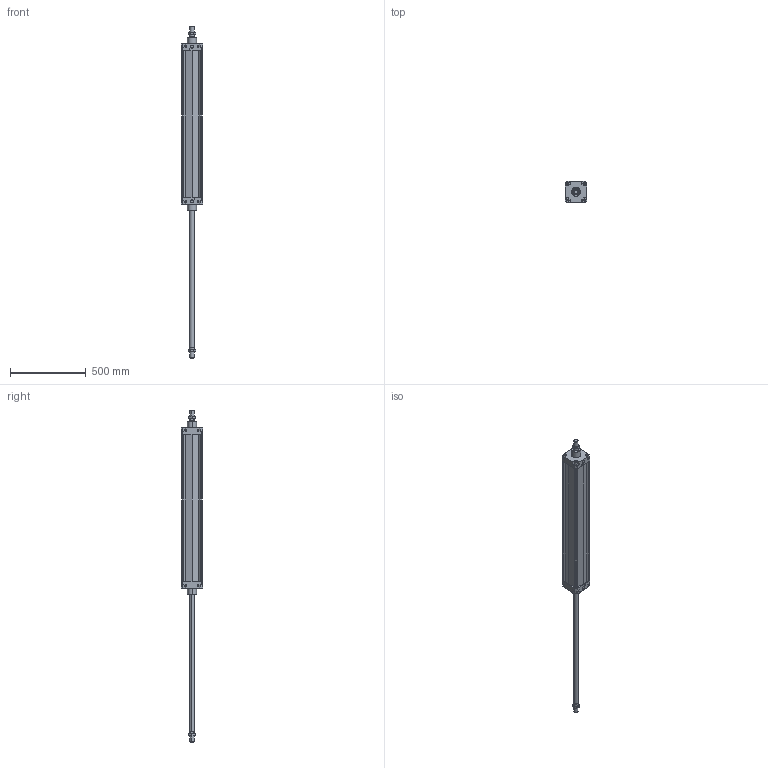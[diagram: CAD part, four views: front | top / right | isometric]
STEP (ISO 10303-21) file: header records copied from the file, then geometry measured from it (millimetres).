
FILE_DESCRIPTION((''),'2;1');
FILE_NAME('I:\DOC-EDP\Lib-3d\1319\CILINDRI\Ø125\1319_125_0900_02.stp','2003-04-08T12:27:51',('maffial1'),(''),'Autodesk Inventor (R) 6.0','Autodesk Inventor (R) 6.0','');
FILE_SCHEMA(('AUTOMOTIVE_DESIGN { 1 0 10303 214 1 1 1 1 }'));
Length unit declared in the file: millimetre
Products named in the file (4): 1319_125_0900_02; CIM04_125_900; CIM03_125_900; 1320_125_18F
Assembly tree (4 placements, depth 2):
  1319_125_0900_02
    CIM04_125_900
    CIM03_125_900
    1320_125_18F  x2
Bounding box: 140 x 140 x 2198 mm (x, y, z)
Volume: 18121499.4 mm3; surface area: 1023033.6 mm2
Topology: 4 solids, 4 shells, 290 faces, 724 edges, 452 vertices
Faces by surface type: plane 130, bspline 72, cone 60, cylinder 28
Entity records: 8094 total; most frequent: CARTESIAN_POINT 1972, ORIENTED_EDGE 1288, DIRECTION 1160, EDGE_CURVE 644, VECTOR 480, LINE 480, VERTEX_POINT 416, AXIS2_PLACEMENT_3D 340
